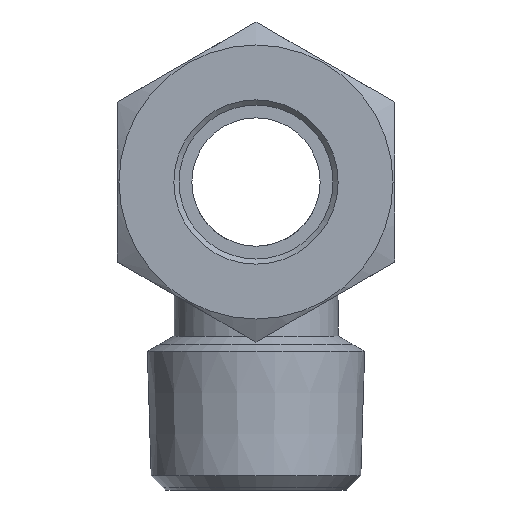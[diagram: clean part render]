
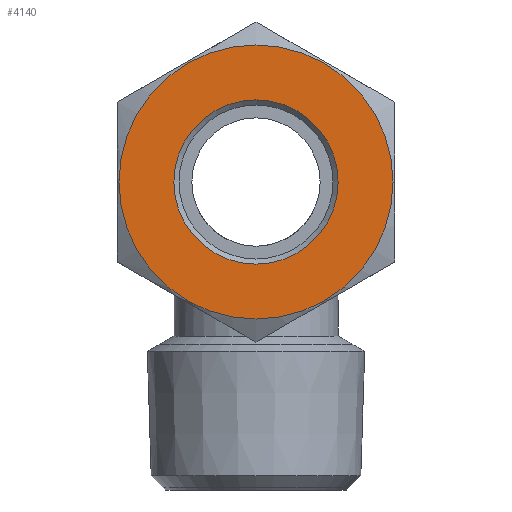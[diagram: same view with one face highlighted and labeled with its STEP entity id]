
A CAD part, left-side view. The second image highlights one B-rep face of the part: STEP entity #4140.
In plain terms, the highlighted planar face has unit normal (-1, 0, 0).
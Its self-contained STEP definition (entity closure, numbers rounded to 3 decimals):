
#4140=ADVANCED_FACE('', (#4150,#4160), #4170, .T.);
#12800=AXIS2_PLACEMENT_3D('Ax2Pl3d', #12810, #12820, #12830);
#12960=AXIS2_PLACEMENT_3D('Ax2Pl3d', #12970, #12980, #12990);
#13000=AXIS2_PLACEMENT_3D('Ax2Pl3d', #13010, #13020, #13030);
#12810=CARTESIAN_POINT('HicPkt', (3.626,0.,32.011));
#51900=CARTESIAN_POINT('', (3.626,0.,45.361));
#12970=CARTESIAN_POINT('HicPkt', (3.626,13.35,32.011));
#13010=CARTESIAN_POINT('HicPkt', (3.626,0.,32.011));
#51920=CARTESIAN_POINT('', (3.626,0.,24.011));
#52800=CIRCLE('Circle', #12800, 13.35);
#52820=CIRCLE('Circle', #13000, 8.);
#12820=DIRECTION('Axis', (1.,0.,0.));
#12830=DIRECTION('RefDirection', (0.,-0.,-1.));
#12980=DIRECTION('Axis', (-1.,0.,0.)
);
#12990=DIRECTION('RefDirection', (0.,
0.,-1.));
#13020=DIRECTION('Axis', (1.,0.,0.));
#13030=DIRECTION('RefDirection', (0.,-0.,-1.));
#64070=EDGE_CURVE('', #64080, #64080, #52800, .T.);
#64110=EDGE_CURVE('', #64120, #64120, #52820, .T.);
#69890=EDGE_LOOP('Edge_loop', (#69900));
#69910=EDGE_LOOP('Edge_loop', (#69920));
#4160=FACE_BOUND('', #69910, .T.);
#4150=FACE_OUTER_BOUND('Face_outer_bound', #69890, .T.);
#69900=ORIENTED_EDGE('', *, *, #64070, .F.);
#69920=ORIENTED_EDGE('', *, *, #64110, .T.);
#4170=PLANE('Plane', #12960);
#64080=VERTEX_POINT('', #51900);
#64120=VERTEX_POINT('', #51920);
